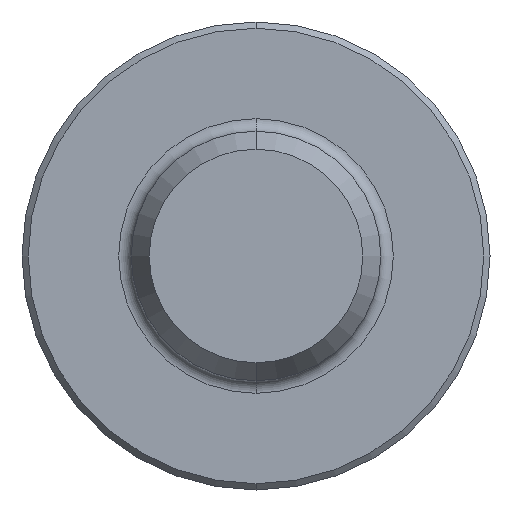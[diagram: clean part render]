
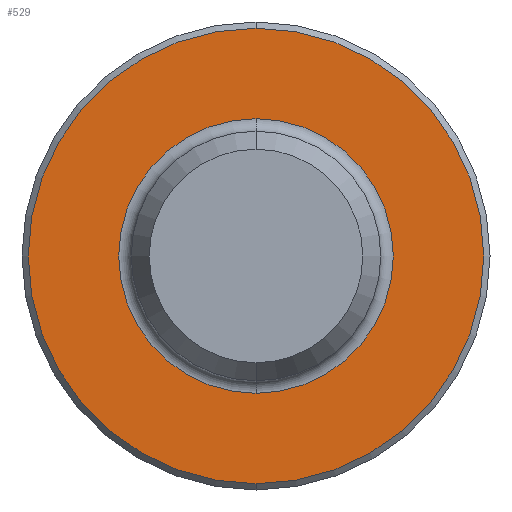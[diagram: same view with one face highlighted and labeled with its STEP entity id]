
A CAD part, front view. The second image highlights one B-rep face of the part: STEP entity #529.
In plain terms, the highlighted planar face has unit normal (0, -1, 0).
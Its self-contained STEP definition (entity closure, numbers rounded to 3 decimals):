
#31 = DIRECTION ( 'NONE',  ( 0., -1., 0. ) ) ;
#37 = EDGE_LOOP ( 'NONE', ( #436, #494 ) ) ;
#41 = AXIS2_PLACEMENT_3D ( 'NONE', #175, #31, #518 ) ;
#50 = ORIENTED_EDGE ( 'NONE', *, *, #195, .T. ) ;
#67 = CARTESIAN_POINT ( 'NONE',  ( 0., -1.5, 4.4 ) ) ;
#74 = VERTEX_POINT ( 'NONE', #67 ) ;
#98 = EDGE_LOOP ( 'NONE', ( #50, #217 ) ) ;
#100 = CARTESIAN_POINT ( 'NONE',  ( 0., -1.5, 0. ) ) ;
#129 = CIRCLE ( 'NONE', #41, 7.3 ) ;
#131 = VERTEX_POINT ( 'NONE', #504 ) ;
#158 = DIRECTION ( 'NONE',  ( 0., -1., 0. ) ) ;
#161 = CIRCLE ( 'NONE', #298, 7.3 ) ;
#175 = CARTESIAN_POINT ( 'NONE',  ( 0., -1.5, 0. ) ) ;
#185 = CARTESIAN_POINT ( 'NONE',  ( 0., -1.5, 0. ) ) ;
#189 = AXIS2_PLACEMENT_3D ( 'NONE', #100, #342, #350 ) ;
#195 = EDGE_CURVE ( 'NONE', #412, #196, #129, .T. ) ;
#196 = VERTEX_POINT ( 'NONE', #474 ) ;
#200 = CARTESIAN_POINT ( 'NONE',  ( 0., -1.5, 0. ) ) ;
#210 = DIRECTION ( 'NONE',  ( 0., 0., -1. ) ) ;
#216 = DIRECTION ( 'NONE',  ( 0., 0., -1. ) ) ;
#217 = ORIENTED_EDGE ( 'NONE', *, *, #524, .T. ) ;
#256 = CARTESIAN_POINT ( 'NONE',  ( 7.5, -1.5, 0. ) ) ;
#274 = EDGE_CURVE ( 'NONE', #74, #131, #472, .T. ) ;
#291 = CIRCLE ( 'NONE', #189, 4.4 ) ;
#298 = AXIS2_PLACEMENT_3D ( 'NONE', #200, #311, #210 ) ;
#311 = DIRECTION ( 'NONE',  ( 0., -1., 0. ) ) ;
#342 = DIRECTION ( 'NONE',  ( 0., 1., 0. ) ) ;
#350 = DIRECTION ( 'NONE',  ( 0., 0., -1. ) ) ;
#353 = FACE_BOUND ( 'NONE', #37, .T. ) ;
#390 = AXIS2_PLACEMENT_3D ( 'NONE', #256, #158, #216 ) ;
#400 = CARTESIAN_POINT ( 'NONE',  ( 0., -1.5, 7.3 ) ) ;
#411 = FACE_OUTER_BOUND ( 'NONE', #98, .T. ) ;
#412 = VERTEX_POINT ( 'NONE', #400 ) ;
#436 = ORIENTED_EDGE ( 'NONE', *, *, #483, .T. ) ;
#442 = DIRECTION ( 'NONE',  ( 0., 1., 0. ) ) ;
#472 = CIRCLE ( 'NONE', #495, 4.4 ) ;
#474 = CARTESIAN_POINT ( 'NONE',  ( 0., -1.5, -7.3 ) ) ;
#483 = EDGE_CURVE ( 'NONE', #131, #74, #291, .T. ) ;
#494 = ORIENTED_EDGE ( 'NONE', *, *, #274, .T. ) ;
#495 = AXIS2_PLACEMENT_3D ( 'NONE', #185, #442, #589 ) ;
#504 = CARTESIAN_POINT ( 'NONE',  ( 0., -1.5, -4.4 ) ) ;
#518 = DIRECTION ( 'NONE',  ( 0., 0., -1. ) ) ;
#524 = EDGE_CURVE ( 'NONE', #196, #412, #161, .T. ) ;
#529 = ADVANCED_FACE ( 'NONE', ( #353, #411 ), #550, .T. ) ;
#550 = PLANE ( 'NONE',  #390 ) ;
#589 = DIRECTION ( 'NONE',  ( 0., 0., -1. ) ) ;
